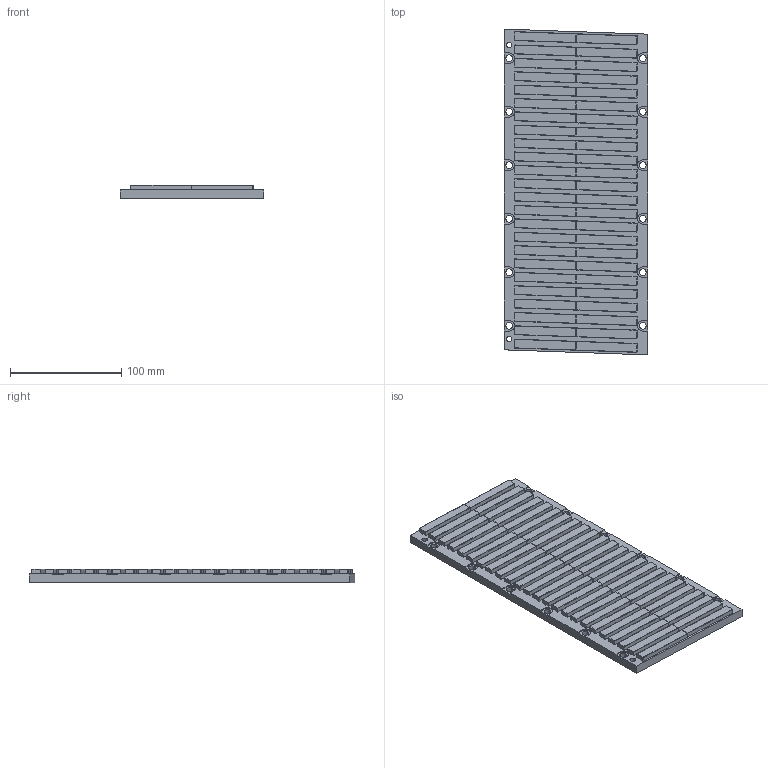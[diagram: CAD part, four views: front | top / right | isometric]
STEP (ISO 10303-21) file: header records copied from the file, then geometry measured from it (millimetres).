
FILE_DESCRIPTION (( 'STEP AP214' ), '1' );
FILE_NAME ('MPV124-288.STEP', '2024-07-24T02:17:46', ( '' ), ( '' ), 'SwSTEP 2.0', 'SolidWorks 2019', '' );
FILE_SCHEMA (( 'AUTOMOTIVE_DESIGN' ));
Length unit declared in the file: millimetre
Products named in the file (1): MPV124-288
Bounding box: 129 x 292.35 x 12 mm (x, y, z)
Volume: 377855.5 mm3; surface area: 104408 mm2
Topology: 1 solids, 1 shells, 904 faces, 2202 edges, 1132 vertices
Faces by surface type: cylinder 478, plane 234, bspline 192
Entity records: 26780 total; most frequent: CARTESIAN_POINT 6927, DIRECTION 4392, ORIENTED_EDGE 4020, EDGE_CURVE 2010, AXIS2_PLACEMENT_3D 1669, VERTEX_POINT 1132, VECTOR 1054, LINE 1054
